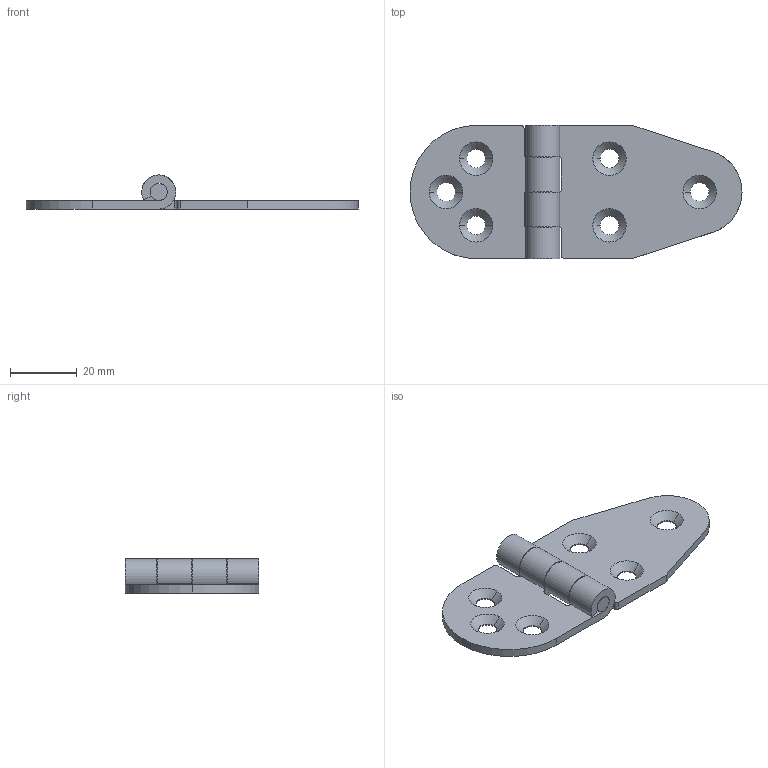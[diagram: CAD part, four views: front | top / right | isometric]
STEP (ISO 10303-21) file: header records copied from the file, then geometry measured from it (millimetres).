
FILE_DESCRIPTION(/* description */ (''),/* implementation_level */ '2;1');
FILE_NAME(/* name */ 'JL238-1-2-3',/* time_stamp */ '2024-09-18T11:48:44+08:00',/* author */ (''),/* organization */ (''),/* preprocessor_version */ 'ST-DEVELOPER v19.2',/* originating_system */ 'Rhino 8.5',/* authorisation */ '');
FILE_SCHEMA (('CONFIG_CONTROL_DESIGN'));
Length unit declared in the file: millimetre
Products named in the file (1): Document
Bounding box: 99.5 x 40 x 10.2 mm (x, y, z)
Volume: 10052.8 mm3; surface area: 9756.5 mm2
Topology: 3 solids, 3 shells, 70 faces, 180 edges, 116 vertices
Faces by surface type: cylinder 31, plane 24, bspline 15
Entity records: 2486 total; most frequent: CARTESIAN_POINT 913, ORIENTED_EDGE 360, DIRECTION 205, EDGE_CURVE 180, AXIS2_PLACEMENT_3D 127, VERTEX_POINT 116, EDGE_LOOP 82, TRIMMED_CURVE 76
